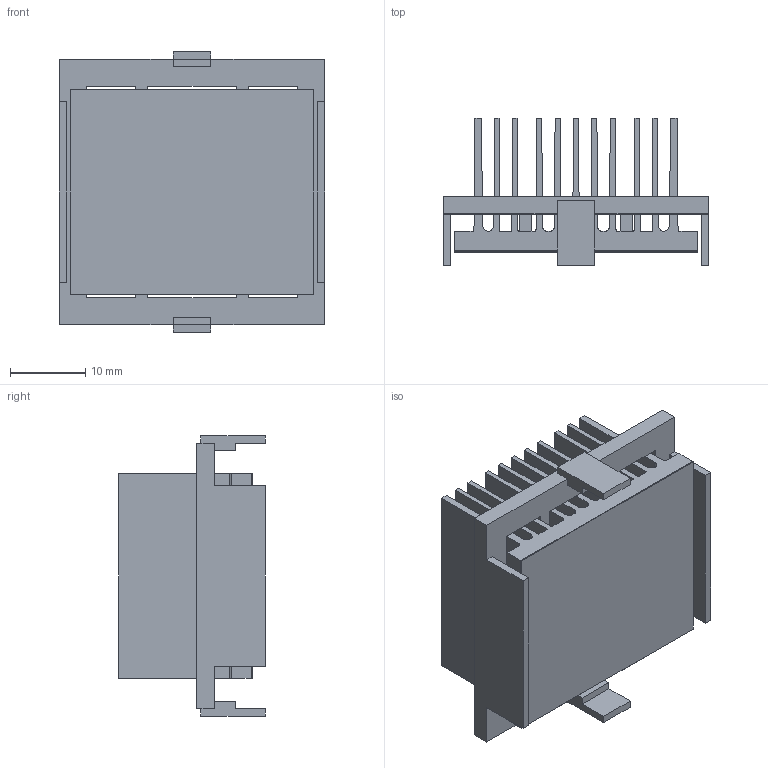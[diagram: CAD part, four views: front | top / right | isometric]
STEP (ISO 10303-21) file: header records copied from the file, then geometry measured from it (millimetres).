
FILE_DESCRIPTION (( 'STEP AP214' ), '1' );
FILE_NAME ('INH33001-18-2.6BU.STEP', '2023-02-17T18:13:43', ( '' ), ( '' ), 'SwSTEP 2.0', 'SolidWorks 2020', '' );
FILE_SCHEMA (( 'AUTOMOTIVE_DESIGN' ));
Length unit declared in the file: millimetre
Products named in the file (1): INH33001-18-2.6BU
Bounding box: 35.2 x 19.5 x 37.2 mm (x, y, z)
Volume: 7577.7 mm3; surface area: 15515 mm2
Topology: 3 solids, 3 shells, 130 faces, 372 edges, 248 vertices
Faces by surface type: plane 112, cylinder 18
Entity records: 5678 total; most frequent: CARTESIAN_POINT 751, ORIENTED_EDGE 744, DIRECTION 670, EDGE_CURVE 372, LINE 336, VECTOR 336, VERTEX_POINT 248, AXIS2_PLACEMENT_3D 167
